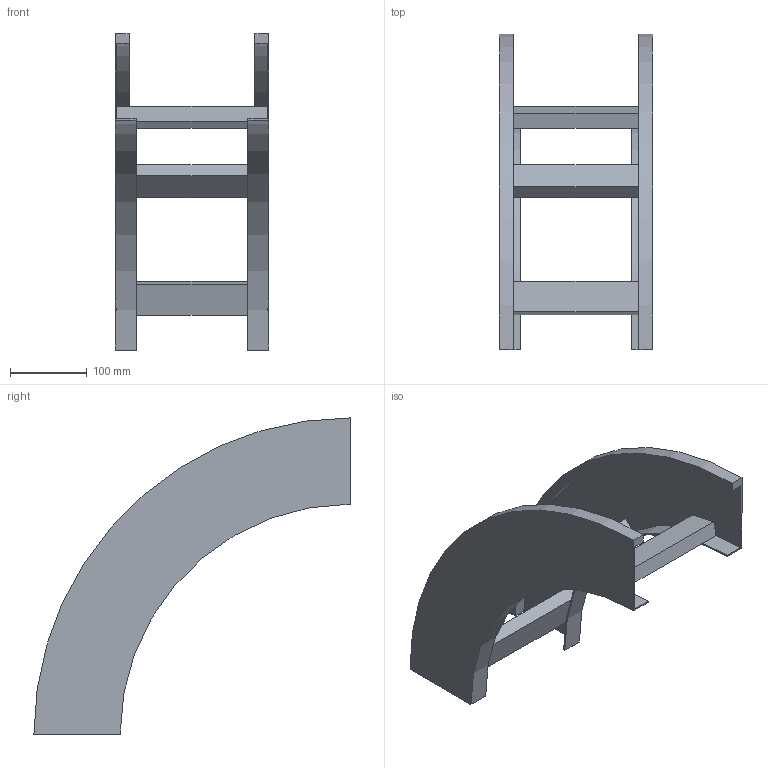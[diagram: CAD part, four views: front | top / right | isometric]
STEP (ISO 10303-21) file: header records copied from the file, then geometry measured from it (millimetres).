
FILE_DESCRIPTION (( 'STEP AP214' ), '1' );
FILE_NAME ('B2_33B3J200.step', '2025-02-21T15:04:03', ( '' ), ( '' ), 'SwSTEP 2.0', 'SolidWorks 2023', '' );
FILE_SCHEMA (( 'AUTOMOTIVE_DESIGN' ));
Length unit declared in the file: millimetre
Products named in the file (3): B2_LONGH.DISCESA_90°_H112.5_R300; TRAVERSINO_200; B2_33B3J200
Assembly tree (5 placements, depth 2):
  B2_33B3J200
    B2_LONGH.DISCESA_90°_H112.5_R300  x2
    TRAVERSINO_200  x3
Bounding box: 200 x 412.5 x 412.5 mm (x, y, z)
Volume: 1020574.3 mm3; surface area: 422317.9 mm2
Topology: 5 solids, 5 shells, 38 faces, 84 edges, 56 vertices
Faces by surface type: plane 30, cylinder 8
Entity records: 560 total; most frequent: DIRECTION 92, CARTESIAN_POINT 84, ORIENTED_EDGE 72, EDGE_CURVE 36, AXIS2_PLACEMENT_3D 32, LINE 28, VECTOR 28, VERTEX_POINT 24
